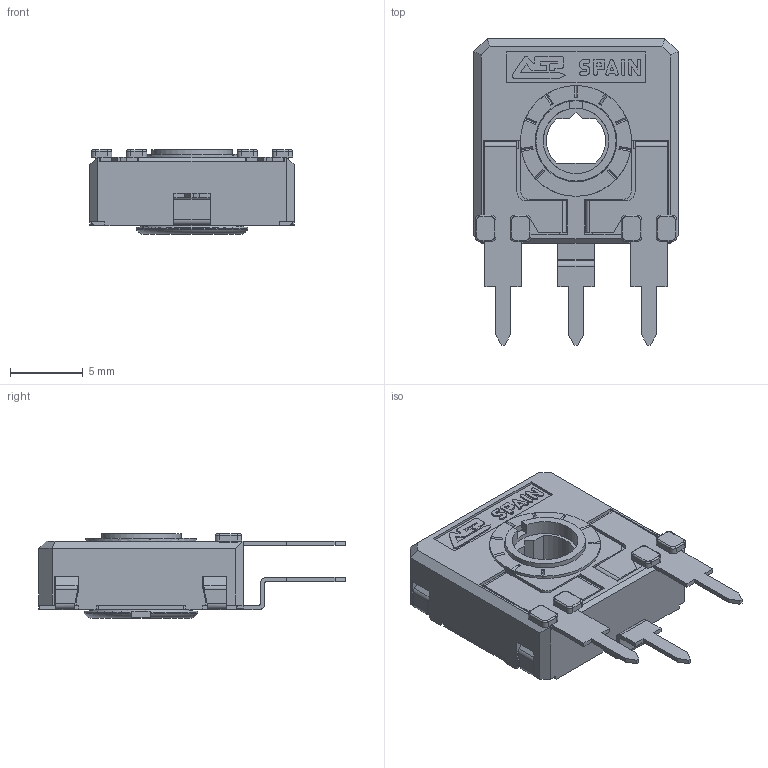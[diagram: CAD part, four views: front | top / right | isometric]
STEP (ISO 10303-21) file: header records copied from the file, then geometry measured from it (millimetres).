
FILE_DESCRIPTION(/* description */ (''),/* implementation_level */ '2;1');
FILE_NAME(/* name */ 'COMCA14KH2,5.stp',/* time_stamp */ '2026-04-01T17:00:15+02:00',/* author */ ('CEM'),/* organization */ (''),/* preprocessor_version */ 'ST-DEVELOPER v20.1',/* originating_system */ 'Autodesk Inventor 2026',/* authorisation */ '');
FILE_SCHEMA (('AUTOMOTIVE_DESIGN { 1 0 10303 214 3 1 1 }'));
Length unit declared in the file: millimetre
Products named in the file (1): CA14NH2,5
Bounding box: 14 x 21 x 5.8 mm (x, y, z)
Volume: 531.9 mm3; surface area: 1462.1 mm2
Topology: 1 solids, 1 shells, 669 faces, 1884 edges, 1211 vertices
Faces by surface type: plane 497, cylinder 135, torus 23, bspline 8, cone 6
Full cylindrical faces by diameter (mm): 4.5 x1, 5.5 x1, 5.6 x1, 5.752 x1, 6.8 x1, 7.6 x1
Entity records: 21798 total; most frequent: CARTESIAN_POINT 4062, ORIENTED_EDGE 3768, DIRECTION 3512, EDGE_CURVE 1884, LINE 1490, VECTOR 1490, VERTEX_POINT 1211, AXIS2_PLACEMENT_3D 1011
